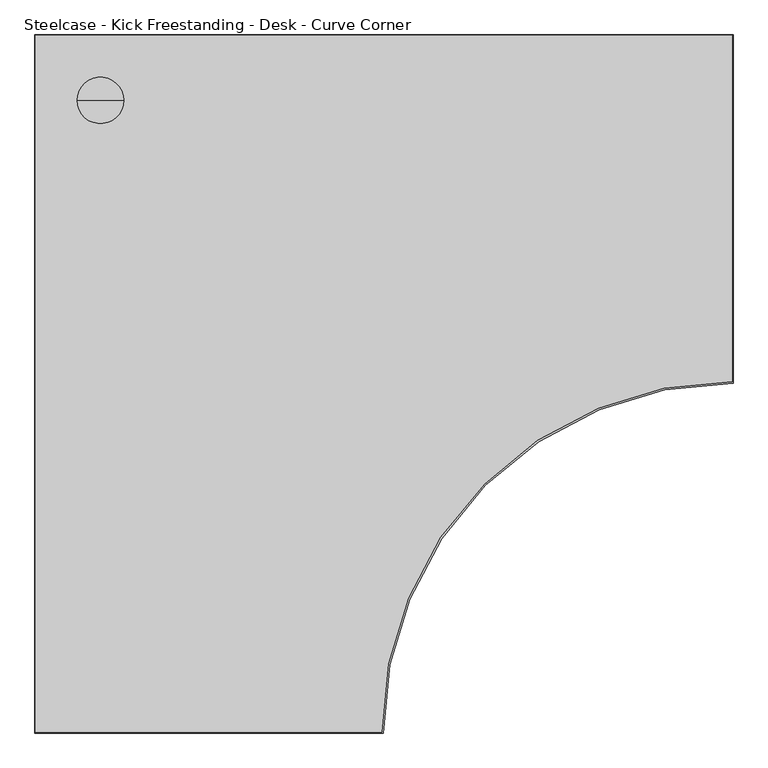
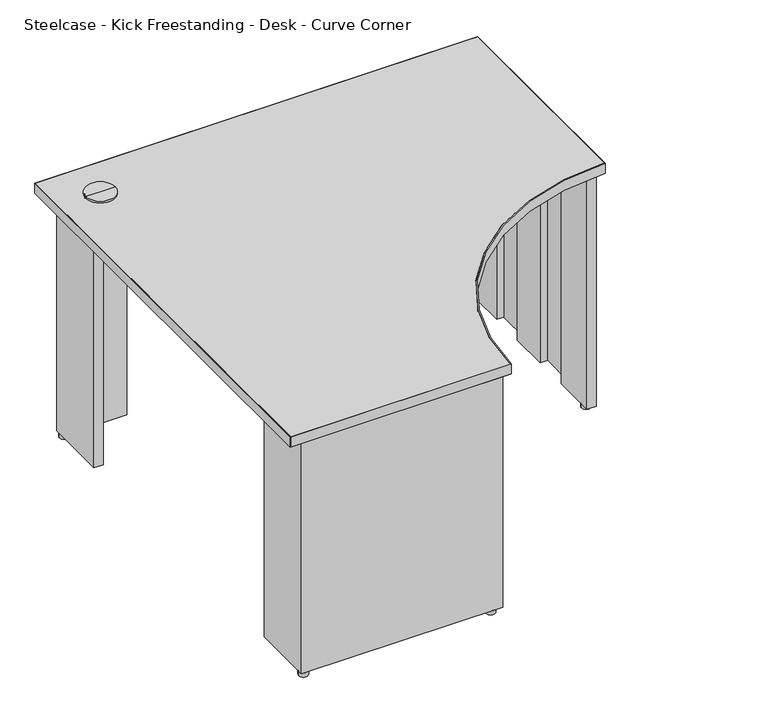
"""IFC4 building model written with IfcOpenShell, lengths in millimetres: furniture geometry, Steelcase - Kick Freestanding - Desk - Curve Corner : 24D x 48W - Two Full Panel - LPL."""

import ifcopenshell
import ifcopenshell.guid

model = None  # the IFC model being written
_history = None  # IfcOwnerHistory: only IFC2X3 demands one
_inside = {}  # id of a spatial element -> (the spatial element, [elements in it])
_under = {}  # id of a project, library or spatial element -> (it, [spatial elements below it])
_declared = {}  # id of a project -> (the project, [libraries it declares])
_typed = {}  # id of a type object -> (the type object, [elements of that type])
_made_of = {}  # id of a material, layer set ... -> (it, [elements and type objects made of it])


def new_model(schema):
    """Start an empty IFC model of exactly this schema.

    Asked for "IFC4X3", IfcOpenShell would pick the latest addendum, in which some entities
    have other attributes; the version numbers below select the first issue.
    IFC2X3 requires an IfcOwnerHistory on every rooted entity: one is made here for all.
    """
    global model, _history
    if schema == "IFC4X3":
        model = ifcopenshell.file(schema_version=(4, 3, 0, 0))
    else:
        model = ifcopenshell.file(schema=schema)
    _inside.clear()
    _under.clear()
    _declared.clear()
    _typed.clear()
    _made_of.clear()
    _history = None
    if model.schema == "IFC2X3":
        org = make("IfcOrganization", Name="unknown")
        user = make(
            "IfcPersonAndOrganization",
            ThePerson=make("IfcPerson", FamilyName="unknown"),
            TheOrganization=org,
        )
        app = make(
            "IfcApplication",
            ApplicationDeveloper=org,
            Version="unknown",
            ApplicationFullName="unknown",
            ApplicationIdentifier="unknown",
        )
        _history = make(
            "IfcOwnerHistory",
            OwningUser=user,
            OwningApplication=app,
            ChangeAction="ADDED",
            CreationDate=0,
        )
    return model


def make(cls, **values):
    """One entity of the class cls with the attributes given. An attribute that is None is left unset."""
    return model.create_entity(
        cls, **{name: value for name, value in values.items() if value is not None}
    )


def rooted(cls, **values):
    """An entity with a GlobalId (a new one), such as an element, a storey or a relation."""
    return make(cls, GlobalId=ifcopenshell.guid.new(), OwnerHistory=_history, **values)


def si_unit(unit_type, name, prefix=None):
    """IfcSIUnit, for example si_unit("LENGTHUNIT", "METRE", prefix="MILLI")."""
    return make("IfcSIUnit", UnitType=unit_type, Prefix=prefix, Name=name)


def assignment(units):
    """IfcUnitAssignment: the units of a project."""
    return None if units is None else make("IfcUnitAssignment", Units=units)


def point(xyz):
    """IfcCartesianPoint."""
    return None if xyz is None else make("IfcCartesianPoint", Coordinates=xyz)


def direction(xyz):
    """IfcDirection."""
    return None if xyz is None else make("IfcDirection", DirectionRatios=xyz)


def frame(location, z_axis=None, x_axis=None):
    """IfcAxis2Placement3D, a coordinate frame: its origin and axes. An axis left out is left unset."""
    return make(
        "IfcAxis2Placement3D",
        Location=point(location),
        Axis=direction(z_axis),
        RefDirection=direction(x_axis),
    )


def frame_2d(location, x_axis=None):
    """IfcAxis2Placement2D, a coordinate frame in the plane: its origin and x axis."""
    return make(
        "IfcAxis2Placement2D", Location=point(location), RefDirection=direction(x_axis)
    )


def origin():
    """The frame at (0, 0, 0) with its axes left unset."""
    return frame((0.0, 0.0, 0.0))


def origin_with_axes():
    """The frame at (0, 0, 0) with the z axis (0, 0, 1) and the x axis (1, 0, 0) written out."""
    return frame((0.0, 0.0, 0.0), z_axis=(0.0, 0.0, 1.0), x_axis=(1.0, 0.0, 0.0))


def place(relative_to, where):
    """IfcLocalPlacement: puts the frame where relative to a parent placement (None: the world)."""
    return make(
        "IfcLocalPlacement", PlacementRelTo=relative_to, RelativePlacement=where
    )


def context(
    kind, dimensions, precision=None, world=None, true_north=None, identifier=None
):
    """IfcGeometricRepresentationContext, for example the 3D "Model" context."""
    return make(
        "IfcGeometricRepresentationContext",
        ContextIdentifier=identifier,
        ContextType=kind,
        CoordinateSpaceDimension=dimensions,
        Precision=precision,
        WorldCoordinateSystem=world,
        TrueNorth=true_north,
    )


def project(units=None, contexts=None):
    """IfcProject with its units and contexts."""
    return rooted(
        "IfcProject",
        Name="project",
        RepresentationContexts=contexts,
        UnitsInContext=assignment(units),
    )


def spatial(cls, under=None, at=None, **own):
    """A site, building, storey or space (cls), placed at a placement, below another one or the project."""
    s = rooted(cls, ObjectPlacement=at, **own)
    if under is not None:
        _under.setdefault(under.id(), (under, []))[1].append(s)
    return s


def polyline(points):
    """IfcPolyline through the points."""
    return make("IfcPolyline", Points=[point(p) for p in points])


def circle_curve(where, radius):
    """IfcCircle in the frame where."""
    return make("IfcCircle", Position=where, Radius=radius)


def trimmed(basis, trim1, trim2, sense, master):
    """IfcTrimmedCurve: the piece of a basis curve between two trims."""
    return make(
        "IfcTrimmedCurve",
        BasisCurve=basis,
        Trim1=trim1,
        Trim2=trim2,
        SenseAgreement=sense,
        MasterRepresentation=master,
    )


def segment(curve, same_sense, transition):
    """IfcCompositeCurveSegment."""
    return make(
        "IfcCompositeCurveSegment",
        Transition=transition,
        SameSense=same_sense,
        ParentCurve=curve,
    )


def composite_curve(segments, self_intersect=None):
    """IfcCompositeCurve: segments joined end to end."""
    return make("IfcCompositeCurve", Segments=segments, SelfIntersect=self_intersect)


def outline(outer, holes=None, kind="AREA"):
    """IfcArbitraryClosedProfileDef: a profile drawn as a closed curve; with holes, ...WithVoids."""
    if holes is None:
        return make("IfcArbitraryClosedProfileDef", ProfileType=kind, OuterCurve=outer)
    return make(
        "IfcArbitraryProfileDefWithVoids",
        ProfileType=kind,
        OuterCurve=outer,
        InnerCurves=holes,
    )


def extrude(swept, where, along, depth):
    """IfcExtrudedAreaSolid: the profile swept, set in the frame where, extruded along a direction by depth."""
    return make(
        "IfcExtrudedAreaSolid",
        SweptArea=swept,
        Position=where,
        ExtrudedDirection=direction(along),
        Depth=depth,
    )


def shape(context_of_items, identifier, shape_type, items):
    """IfcShapeRepresentation: the items that make up one representation, for example the "Body"."""
    return make(
        "IfcShapeRepresentation",
        ContextOfItems=context_of_items,
        RepresentationIdentifier=identifier,
        RepresentationType=shape_type,
        Items=items,
    )


def source(mapping_origin, context_of_items, identifier, shape_type, items):
    """IfcRepresentationMap: a shape defined once, which mapped items show again and again."""
    return make(
        "IfcRepresentationMap",
        MappingOrigin=mapping_origin,
        MappedRepresentation=shape(context_of_items, identifier, shape_type, items),
    )


def transform(
    local_origin,
    x_axis=None,
    y_axis=None,
    z_axis=None,
    scale=None,
    scale2=None,
    scale3=None,
    uniform=True,
):
    """IfcCartesianTransformationOperator3D, or its non-uniform kind. x_axis, y_axis, z_axis: its Axis1, 2, 3."""
    if uniform:
        return make(
            "IfcCartesianTransformationOperator3D",
            Axis1=direction(x_axis),
            Axis2=direction(y_axis),
            LocalOrigin=point(local_origin),
            Scale=scale,
            Axis3=direction(z_axis),
        )
    return make(
        "IfcCartesianTransformationOperator3DnonUniform",
        Axis1=direction(x_axis),
        Axis2=direction(y_axis),
        LocalOrigin=point(local_origin),
        Scale=scale,
        Axis3=direction(z_axis),
        Scale2=scale2,
        Scale3=scale3,
    )


def mapped(mapping_source, mapping_target):
    """IfcMappedItem: shows the shape of a source again, moved by a transform."""
    return make(
        "IfcMappedItem", MappingSource=mapping_source, MappingTarget=mapping_target
    )


def made_of(thing, what):
    """Note that an element or type object is made of a material, layer set ...; save() writes the relation."""
    if what is not None:
        _made_of.setdefault(what.id(), (what, []))[1].append(thing)
    return thing


def element(
    cls,
    number,
    at=None,
    inside=None,
    cuts=None,
    type_object=None,
    material=None,
    context=None,
    identifier="Body",
    shape_type=None,
    held_by="IfcProductDefinitionShape",
    body=None,
    shapes=None,
    **own,
):
    """One element of the class cls, such as IfcWall. Its Tag is "e" and its number.

    at: its placement. inside: the storey or other place that contains it. cuts: it is an
    opening in that element (IfcRelVoidsElement). A single representation is given by context,
    identifier, shape_type and body (its items); several are given by shapes. held_by: the class
    of the entity that holds the representations. save() writes the other relations.
    """
    e = rooted(cls, Tag="e%d" % number, ObjectPlacement=at, **own)
    if body is not None:
        shapes = [shape(context, identifier, shape_type, body)]
    if shapes is not None:
        e.Representation = make(held_by, Representations=shapes)
    if inside is not None:
        _inside.setdefault(inside.id(), (inside, []))[1].append(e)
    if cuts is not None:
        rooted(
            "IfcRelVoidsElement", RelatingBuildingElement=cuts, RelatedOpeningElement=e
        )
    if type_object is not None:
        _typed.setdefault(type_object.id(), (type_object, []))[1].append(e)
    return made_of(e, material)


def aggregate(whole, parts):
    """IfcRelAggregates: a whole, such as a stair, and the parts it consists of."""
    return rooted("IfcRelAggregates", RelatingObject=whole, RelatedObjects=parts)


def save(model, path):
    """Write the relations noted so far, then the file.

    IfcRelAggregates (storeys below a building ...), IfcRelContainedInSpatialStructure (elements
    in a storey), IfcRelDefinesByType, IfcRelAssociatesMaterial and IfcRelDeclares: one each for
    every whole, place, type object, material and project.
    """
    for whole, parts in _under.values():
        aggregate(whole, parts)
    for where, things in _inside.values():
        rooted(
            "IfcRelContainedInSpatialStructure",
            RelatedElements=things,
            RelatingStructure=where,
        )
    for kind, things in _typed.values():
        rooted("IfcRelDefinesByType", RelatedObjects=things, RelatingType=kind)
    for what, things in _made_of.values():
        rooted("IfcRelAssociatesMaterial", RelatedObjects=things, RelatingMaterial=what)
    for by, libraries in _declared.values():
        rooted("IfcRelDeclares", RelatingContext=by, RelatedDefinitions=libraries)
    model.write(path)


def plane_surface(at):
    """IfcPlane: the flat surface through the origin of the frame at, square to its z axis."""
    return make("IfcPlane", Position=at)


def cylinder_surface(at, radius):
    """IfcCylindricalSurface: all points at the distance radius from the z axis of the frame at."""
    return make("IfcCylindricalSurface", Position=at, Radius=radius)


def advanced_brep(points, edges, surfaces, faces):
    """IfcAdvancedBrep: a solid bounded by faces that lie on surfaces and meet in shared edges.

    An edge is (start, end): straight between two places in points (the first is 0);
    or (start, end, curve); or (start, end, curve, False) where it runs against its curve.
    A face is (place in surfaces, loops), or (place, loops, False) where it looks against
    its surface's normal. A loop lists edges by number (the first is 1), with a minus sign
    where the edge is run from its end to its start. The first loop is the outer one.
    """
    corners = [point(p) for p in points]
    vertices = [make("IfcVertexPoint", VertexGeometry=c) for c in corners]
    made = []
    for start, end, *more in edges:
        made.append(
            make(
                "IfcEdgeCurve",
                EdgeStart=vertices[start],
                EdgeEnd=vertices[end],
                EdgeGeometry=more[0] if more else make("IfcPolyline", Points=[corners[start], corners[end]]),
                SameSense=more[1] if len(more) > 1 else True,
            )
        )
    hull = []
    for where, loops, *sense in faces:
        bounds = []
        for j, loop in enumerate(loops):
            ring = [make("IfcOrientedEdge", EdgeElement=made[abs(k) - 1], Orientation=k > 0) for k in loop]
            bounds.append(
                make(
                    "IfcFaceOuterBound" if j == 0 else "IfcFaceBound",
                    Bound=make("IfcEdgeLoop", EdgeList=ring),
                    Orientation=True,
                )
            )
        hull.append(make("IfcAdvancedFace", Bounds=bounds, FaceSurface=surfaces[where], SameSense=sense[0] if sense else True))
    return make("IfcAdvancedBrep", Outer=make("IfcClosedShell", CfsFaces=hull))


def steelcase_kick_freestanding_desk_curve_corner_4c7b50b2(model_context):
    return source(origin(), model_context, "Body", "SolidModel", [
        extrude(outline(composite_curve([segment(trimmed(circle_curve(frame_2d((1191.2853521, -565.8064761)), 12.7), [point((1178.5853521, -565.8064761))], [point((1203.9853521, -565.8064761))], False, "CARTESIAN"), True, "CONTINUOUS"), segment(trimmed(circle_curve(frame_2d((1191.2853521, -565.8064761)), 12.7), [point((1203.9853521, -565.8064761))], [point((1178.5853521, -565.8064761))], False, "CARTESIAN"), True, "CONTINUOUS")], self_intersect=False)), origin_with_axes(), (0.0, 0.0, 1.0), 12.446),
        extrude(outline(composite_curve([segment(trimmed(circle_curve(frame_2d((566.7971133, -1192.2759893)), 12.7), [point((554.0971133, -1192.2759893))], [point((579.4971133, -1192.2759893))], False, "CARTESIAN"), True, "CONTINUOUS"), segment(trimmed(circle_curve(frame_2d((566.7971133, -1192.2759893)), 12.7), [point((579.4971133, -1192.2759893))], [point((554.0971133, -1192.2759893))], False, "CARTESIAN"), True, "CONTINUOUS")], self_intersect=False)), origin_with_axes(), (0.0, 0.0, 1.0), 12.446),
        extrude(outline(polyline([(215.8999939, -63.5), (63.5, -63.5), (63.5, -215.8999939), (38.1, -215.8999939), (38.1, -38.1), (215.8999939, -38.1), (215.8999939, -63.5)])), frame((0.0, 0.0, 12.446), z_axis=(0.0, 0.0, 1.0), x_axis=(1.0, 0.0, 0.0)), (0.0, 0.0, 1.0), 682.498),
        extrude(outline(polyline([(63.5, -1027.4300194), (63.5, -1179.8300194), (161.3662, -1179.8300194), (161.3662, -1199.4895822), (261.0866, -1199.4895822), (261.0866, -1179.8300194), (369.824, -1179.8300194), (369.824, -1199.4895822), (469.5444, -1199.4895822), (469.5444, -1179.8300194), (592.582, -1179.8300194), (592.582, -1205.2299952), (38.1, -1205.2299952), (38.1, -1027.4300194), (63.5, -1027.4300194)])), frame((0.0, 0.0, 12.446), z_axis=(0.0, 0.0, 1.0), x_axis=(1.0, 0.0, 0.0)), (0.0, 0.0, 1.0), 682.498),
        extrude(outline(polyline([(1026.4393822, -63.5), (1026.4393822, -38.1), (1204.2393579, -38.1), (1204.2393579, -592.582), (1178.3313463, -592.582), (1178.3313463, -469.5444), (1198.498945, -469.5444), (1198.498945, -369.824), (1178.3313463, -369.824), (1178.3313463, -261.0866), (1198.498945, -261.0866), (1198.498945, -161.3662), (1178.3313463, -161.3662), (1178.3313463, -63.5), (1026.4393822, -63.5)])), frame((0.0, 0.0, 12.446), z_axis=(0.0, 0.0, 1.0), x_axis=(1.0, 0.0, 0.0)), (0.0, 0.0, 1.0), 682.498),
        advanced_brep(
        [(114.3, -114.3, 728.98), (154.94, -114.3, 728.98), (73.66, -114.3, 728.98), (76.1699693, -114.3, 694.944), (152.4300307, -114.3, 694.944), (114.3, -114.3, 694.944), (76.1699693, -114.3, 723.9), (152.4300307, -114.3, 723.9), (73.66, -114.3, 723.9), (154.94, -114.3, 723.9)],
        [
            (0, 1),
            (1, 2, circle_curve(frame((114.3, -114.3, 728.98), z_axis=(0.0, 0.0, 1.0), x_axis=(1.0, 0.0, 0.0)), 40.64)),
            (2, 0),
            (2, 1, circle_curve(frame((114.3, -114.3, 728.98), z_axis=(0.0, 0.0, 1.0), x_axis=(1.0, 0.0, 0.0)), 40.64)),
            (3, 4, circle_curve(frame((114.3, -114.3, 694.944), z_axis=(0.0, 0.0, -1.0), x_axis=(1.0, 0.0, 0.0)), 38.1300307)),
            (4, 5),
            (5, 3),
            (4, 3, circle_curve(frame((114.3, -114.3, 694.944), z_axis=(0.0, 0.0, -1.0), x_axis=(1.0, 0.0, 0.0)), 38.1300307)),
            (6, 7, circle_curve(frame((114.3, -114.3, 723.9), z_axis=(0.0, 0.0, -1.0), x_axis=(1.0, 0.0, 0.0)), 38.1300307)),
            (7, 4),
            (3, 6),
            (7, 6, circle_curve(frame((114.3, -114.3, 723.9), z_axis=(0.0, 0.0, -1.0), x_axis=(1.0, 0.0, 0.0)), 38.1300307)),
            (8, 9, circle_curve(frame((114.3, -114.3, 723.9), z_axis=(0.0, 0.0, -1.0), x_axis=(1.0, 0.0, 0.0)), 40.64)),
            (9, 7),
            (6, 8),
            (9, 8, circle_curve(frame((114.3, -114.3, 723.9), z_axis=(0.0, 0.0, -1.0), x_axis=(1.0, 0.0, 0.0)), 40.64)),
            (1, 9),
            (8, 2),
        ],
        [
            plane_surface(frame((114.3, -114.3, 728.98), z_axis=(0.0, 0.0, 1.0), x_axis=(1.0, 0.0, 0.0))),
            plane_surface(frame((114.3, -114.3, 694.944), z_axis=(0.0, 0.0, -1.0), x_axis=(1.0, 0.0, 0.0))),
            cylinder_surface(frame((114.3, -114.3, 728.98), z_axis=(0.0, 0.0, 1.0), x_axis=(1.0, 0.0, 0.0)), 38.1300307),
            plane_surface(frame((114.3, -114.3, 723.9), z_axis=(0.0, 0.0, -1.0), x_axis=(1.0, 0.0, 0.0))),
            cylinder_surface(frame((114.3, -114.3, 728.98), z_axis=(0.0, 0.0, 1.0), x_axis=(1.0, 0.0, 0.0)), 40.64),
        ],
        [
            (0, [[1, 2, 3]]),
            (0, [[-3, 4, -1]]),
            (1, [[5, 6, 7]]),
            (1, [[8, -7, -6]]),
            (2, [[9, 10, -5, 11]]),
            (2, [[12, -11, -8, -10]]),
            (3, [[13, 14, -9, 15]]),
            (3, [[16, -15, -12, -14]]),
            (4, [[-2, 17, -13, 18]]),
            (4, [[-4, -18, -16, -17]]),
        ],
    ),
        extrude(outline(composite_curve([segment(trimmed(circle_curve(frame_2d((50.8, -50.8)), 12.7), [point((38.1, -50.8))], [point((63.5, -50.8))], False, "CARTESIAN"), True, "CONTINUOUS"), segment(trimmed(circle_curve(frame_2d((50.8, -50.8)), 12.7), [point((63.5, -50.8))], [point((38.1, -50.8))], False, "CARTESIAN"), True, "CONTINUOUS")], self_intersect=False)), origin_with_axes(), (0.0, 0.0, 1.0), 12.446),
        extrude(outline(composite_curve([segment(trimmed(circle_curve(frame_2d((50.8, -1192.5300073)), 12.7484998), [point((38.0515002, -1192.5300073))], [point((63.5484998, -1192.5300073))], False, "CARTESIAN"), True, "CONTINUOUS"), segment(trimmed(circle_curve(frame_2d((50.8, -1192.5300073)), 12.7484998), [point((63.5484998, -1192.5300073))], [point((38.0515002, -1192.5300073))], False, "CARTESIAN"), True, "CONTINUOUS")], self_intersect=False)), origin_with_axes(), (0.0, 0.0, 1.0), 12.446),
        extrude(outline(composite_curve([segment(trimmed(circle_curve(frame_2d((1191.2853521, -50.8)), 12.7), [point((1178.5853521, -50.8))], [point((1203.9853521, -50.8))], False, "CARTESIAN"), True, "CONTINUOUS"), segment(trimmed(circle_curve(frame_2d((1191.2853521, -50.8)), 12.7), [point((1203.9853521, -50.8))], [point((1178.5853521, -50.8))], False, "CARTESIAN"), True, "CONTINUOUS")], self_intersect=False)), origin_with_axes(), (0.0, 0.0, 1.0), 12.446),
        extrude(outline(composite_curve([segment(polyline([(0.9906, -1218.2093628), (0.9906, -0.9906), (1218.2093628, -0.9906), (1218.2093628, -605.3354109)]), True, "CONTINUOUS"), segment(trimmed(circle_curve(frame_2d((1216.9393458, -1216.9393458)), 611.6052536), [point((1218.2093628, -605.3354109))], [point((605.3354109, -1218.2093628))], True, "CARTESIAN"), True, "CONTINUOUS"), segment(polyline([(605.3354109, -1218.2093628), (0.9906, -1218.2093628)]), True, "CONTINUOUS")], self_intersect=False)), frame((0.0, 0.0, 694.944), z_axis=(0.0, 0.0, 1.0), x_axis=(1.0, 0.0, 0.0)), (0.0, 0.0, 1.0), 28.956),
        extrude(outline(composite_curve([segment(polyline([(1219.2, 0.0), (1219.2, -608.332629)]), True, "CONTINUOUS"), segment(trimmed(circle_curve(frame_2d((1217.929983, -1217.929983)), 609.598677), [point((1219.2, -608.332629))], [point((608.332629, -1219.2))], True, "CARTESIAN"), True, "CONTINUOUS"), segment(polyline([(608.332629, -1219.2), (0.0, -1219.2), (0.0, 0.0), (1219.2, 0.0)]), True, "CONTINUOUS")], self_intersect=False), holes=[composite_curve([segment(polyline([(1218.2093628, -0.9906), (0.9906, -0.9906), (0.9906, -1218.2093628), (605.3354109, -1218.2093628)]), True, "CONTINUOUS"), segment(trimmed(circle_curve(frame_2d((1216.9393458, -1216.9393458)), 611.6052536), [point((605.3354109, -1218.2093628))], [point((1218.2093628, -605.3354109))], False, "CARTESIAN"), True, "CONTINUOUS"), segment(polyline([(1218.2093628, -605.3354109), (1218.2093628, -0.9906)]), True, "CONTINUOUS")], self_intersect=False)]), frame((0.0, 0.0, 694.944), z_axis=(0.0, 0.0, 1.0), x_axis=(1.0, 0.0, 0.0)), (0.0, 0.0, 1.0), 28.956),
    ])


if __name__ == "__main__":
    model = new_model("IFC4")
    model_context = context("Model", 3, world=origin())
    ifc_project = project(units=[si_unit("LENGTHUNIT", "METRE", prefix="MILLI")], contexts=[model_context])
    site = spatial("IfcSite", under=ifc_project)
    building = spatial("IfcBuilding", under=site)
    placement = place(None, origin())
    steelcase_kick_freestanding_desk_curve_corner_shape = steelcase_kick_freestanding_desk_curve_corner_4c7b50b2(model_context)
    element("IfcFurniture", 1, ObjectType="Steelcase - Kick Freestanding - Desk - Curve Corner : 24D x 48W - Two Full Panel - LPL", at=placement, inside=building, context=model_context, shape_type="MappedRepresentation", body=[
        mapped(steelcase_kick_freestanding_desk_curve_corner_shape, transform((0.0, 0.0, 0.0), x_axis=(1.0, 0.0, 0.0), y_axis=(0.0, 1.0, 0.0), z_axis=(0.0, 0.0, 1.0))),
    ])
    save(model, "model.ifc")
